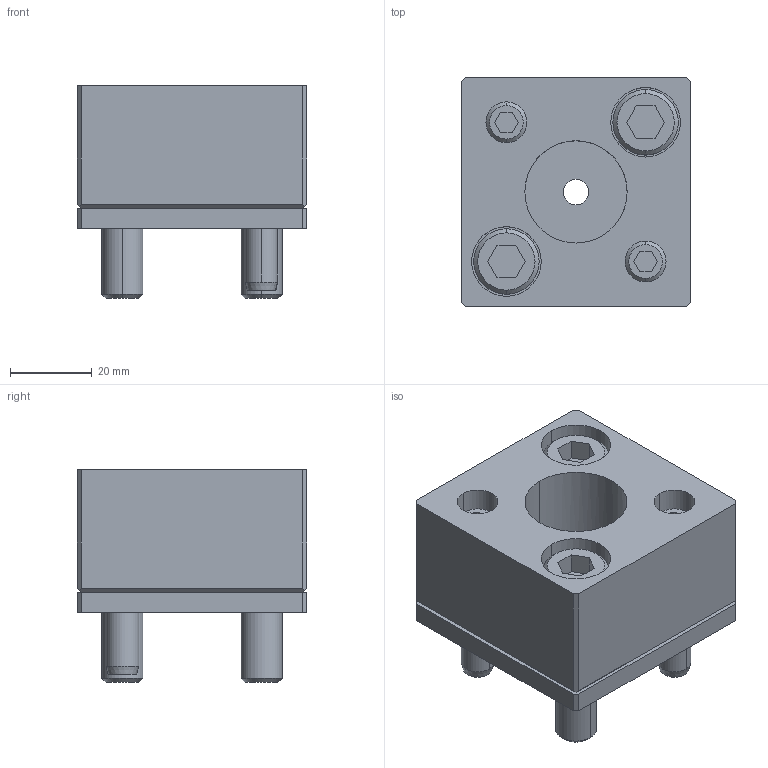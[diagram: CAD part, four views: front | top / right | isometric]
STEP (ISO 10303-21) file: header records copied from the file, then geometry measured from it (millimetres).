
FILE_DESCRIPTION(/* description */ (''),/* implementation_level */ '2;1');
FILE_NAME(/* name */ '3d_sr-fp25_05486_r00.stp',/* time_stamp */ '2011-01-10T14:09:57+09:00',/* author */ ('MISUMI'),/* organization */ (''),/* preprocessor_version */ 'ST-DEVELOPER v11',/* originating_system */ 'UGS - NX 5.0',/* authorisation */ '');
FILE_SCHEMA (('CONFIG_CONTROL_DESIGN'));
Length unit declared in the file: millimetre
Products named in the file (1): 3d_sr-fp25_05486_r00
Bounding box: 56 x 56 x 52 mm (x, y, z)
Volume: 92921.5 mm3; surface area: 32684.6 mm2
Topology: 8 solids, 8 shells, 159 faces, 365 edges, 236 vertices
Faces by surface type: plane 78, cylinder 55, cone 26
Entity records: 4643 total; most frequent: DIRECTION 815, CARTESIAN_POINT 806, ORIENTED_EDGE 730, EDGE_CURVE 365, AXIS2_PLACEMENT_3D 297, VERTEX_POINT 236, LINE 221, VECTOR 221
